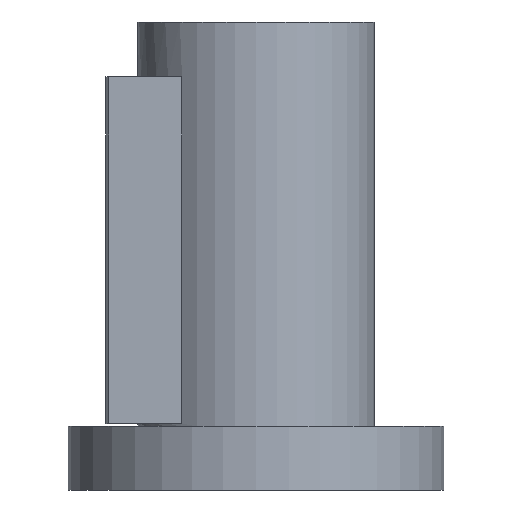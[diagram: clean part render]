
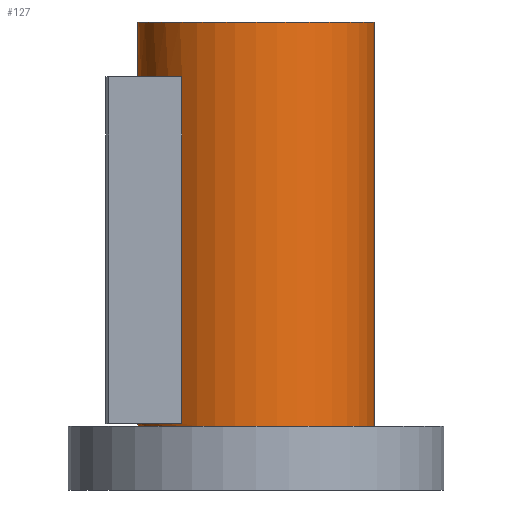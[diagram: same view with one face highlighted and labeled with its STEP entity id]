
A CAD part, front view. The second image highlights one B-rep face of the part: STEP entity #127.
In plain terms, the highlighted cylindrical face has radius 41 mm (diameter 82 mm), a full revolution.
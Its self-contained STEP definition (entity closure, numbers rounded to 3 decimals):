
#127=ADVANCED_FACE('',(#200,#201,#202),#155,.T.);
#155=CYLINDRICAL_SURFACE('',#508,41.);
#168=LINE('',#698,#184);
#169=LINE('',#702,#185);
#184=VECTOR('',#568,1.);
#185=VECTOR('',#571,1.);
#200=FACE_BOUND('',#245,.T.);
#201=FACE_BOUND('',#246,.T.);
#202=FACE_BOUND('',#247,.T.);
#245=EDGE_LOOP('',(#305));
#246=EDGE_LOOP('',(#306));
#247=EDGE_LOOP('',(#307,#308,#309,#310));
#305=ORIENTED_EDGE('',*,*,#431,.F.);
#306=ORIENTED_EDGE('',*,*,#432,.T.);
#307=ORIENTED_EDGE('',*,*,#433,.F.);
#308=ORIENTED_EDGE('',*,*,#434,.F.);
#309=ORIENTED_EDGE('',*,*,#435,.T.);
#310=ORIENTED_EDGE('',*,*,#436,.F.);
#393=VERTEX_POINT('',#692);
#394=VERTEX_POINT('',#694);
#395=VERTEX_POINT('',#696);
#396=VERTEX_POINT('',#697);
#397=VERTEX_POINT('',#699);
#398=VERTEX_POINT('',#701);
#431=EDGE_CURVE('',#393,#393,#475,.T.);
#432=EDGE_CURVE('',#394,#394,#476,.T.);
#433=EDGE_CURVE('',#395,#396,#477,.T.);
#434=EDGE_CURVE('',#397,#395,#168,.T.);
#435=EDGE_CURVE('',#397,#398,#478,.T.);
#436=EDGE_CURVE('',#396,#398,#169,.T.);
#475=CIRCLE('',#504,41.);
#476=CIRCLE('',#505,41.);
#477=CIRCLE('',#506,41.);
#478=CIRCLE('',#507,41.);
#504=AXIS2_PLACEMENT_3D('',#691,#562,#563);
#505=AXIS2_PLACEMENT_3D('',#693,#564,#565);
#506=AXIS2_PLACEMENT_3D('',#695,#566,#567);
#507=AXIS2_PLACEMENT_3D('',#700,#569,#570);
#508=AXIS2_PLACEMENT_3D('',#703,#572,#573);
#562=DIRECTION('',(0.,0.,1.));
#563=DIRECTION('',(1.,0.,0.));
#564=DIRECTION('',(0.,0.,1.));
#565=DIRECTION('',(1.,0.,0.));
#566=DIRECTION('',(0.,0.,-1.));
#567=DIRECTION('',(-1.,0.,0.));
#568=DIRECTION('',(0.,0.,1.));
#569=DIRECTION('',(0.,0.,-1.));
#570=DIRECTION('',(-1.,0.,0.));
#571=DIRECTION('',(0.,0.,-1.));
#572=DIRECTION('',(0.,0.,-1.));
#573=DIRECTION('',(-1.,0.,0.));
#691=CARTESIAN_POINT('',(0.,0.,162.));
#692=CARTESIAN_POINT('',(41.,0.,162.));
#693=CARTESIAN_POINT('',(0.,0.,22.));
#694=CARTESIAN_POINT('',(41.,0.,22.));
#695=CARTESIAN_POINT('',(0.,0.,143.));
#696=CARTESIAN_POINT('',(-25.632,-32.,143.));
#697=CARTESIAN_POINT('',(-25.632,32.,143.));
#698=CARTESIAN_POINT('',(-25.632,-32.,162.));
#699=CARTESIAN_POINT('',(-25.632,-32.,23.));
#700=CARTESIAN_POINT('',(0.,0.,23.));
#701=CARTESIAN_POINT('',(-25.632,32.,23.));
#702=CARTESIAN_POINT('',(-25.632,32.,162.));
#703=CARTESIAN_POINT('',(0.,0.,162.));
